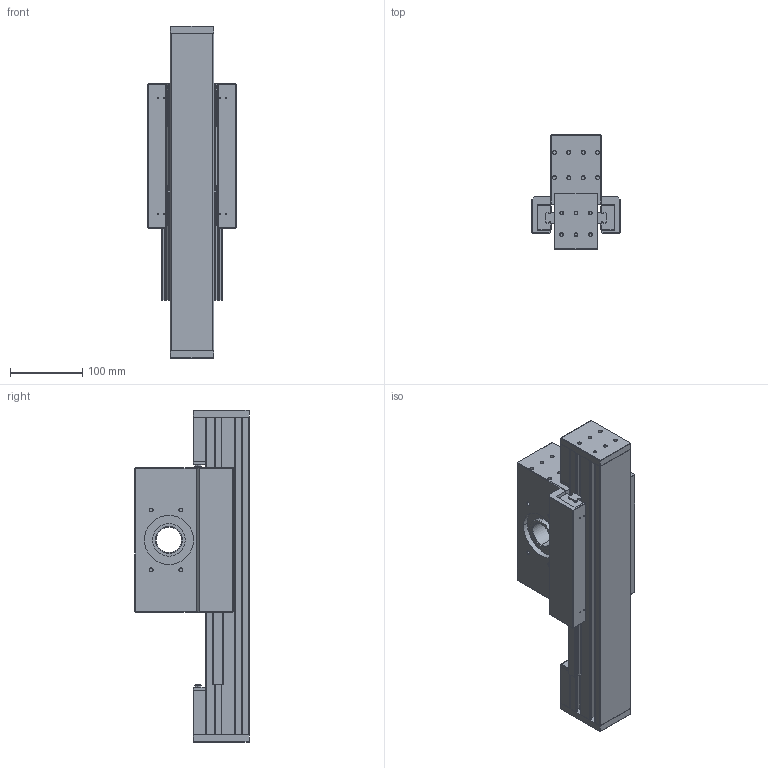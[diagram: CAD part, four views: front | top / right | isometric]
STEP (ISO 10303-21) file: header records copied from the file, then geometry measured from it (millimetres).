
FILE_DESCRIPTION((''),'2;1');
FILE_NAME('Z60-100T_ASM','2017-02-21T',('Owner'),(''),'PRO/ENGINEER BY PARAMETRIC TECHNOLOGY CORPORATION, 2009440','PRO/ENGINEER BY PARAMETRIC TECHNOLOGY CORPORATION, 2009440','');
FILE_SCHEMA(('CONFIG_CONTROL_DESIGN'));
Length unit declared in the file: millimetre
Products named in the file (12): Z60_EXTRUDE; Z60_SIDE_CAP; Z60_UP_CAP; Z60_CUSHION; Z60_DRIVE; BELT70_35; BEARING; PULLEY_ASM; EGR15; EGH15CA; Z60T_MOUNT; Z60-100T_ASM
Assembly tree (20 placements, depth 3):
  Z60-100T_ASM
    Z60_EXTRUDE
    Z60_SIDE_CAP  x2
    Z60_UP_CAP  x2
    Z60_CUSHION  x2
    Z60_DRIVE
    PULLEY_ASM
      BELT70_35
      BEARING  x2
    EGR15  x2
    EGH15CA  x4
    Z60T_MOUNT  x2
Bounding box: 122 x 159 x 460 mm (x, y, z)
Volume: 3203293.6 mm3; surface area: 507442.4 mm2
Topology: 19 solids, 19 shells, 971 faces, 2282 edges, 1432 vertices
Faces by surface type: plane 509, cylinder 290, cone 172
Entity records: 16816 total; most frequent: DIRECTION 3056, CARTESIAN_POINT 2813, ORIENTED_EDGE 2696, EDGE_CURVE 1348, AXIS2_PLACEMENT_3D 1091, VECTOR 874, LINE 874, VERTEX_POINT 848
